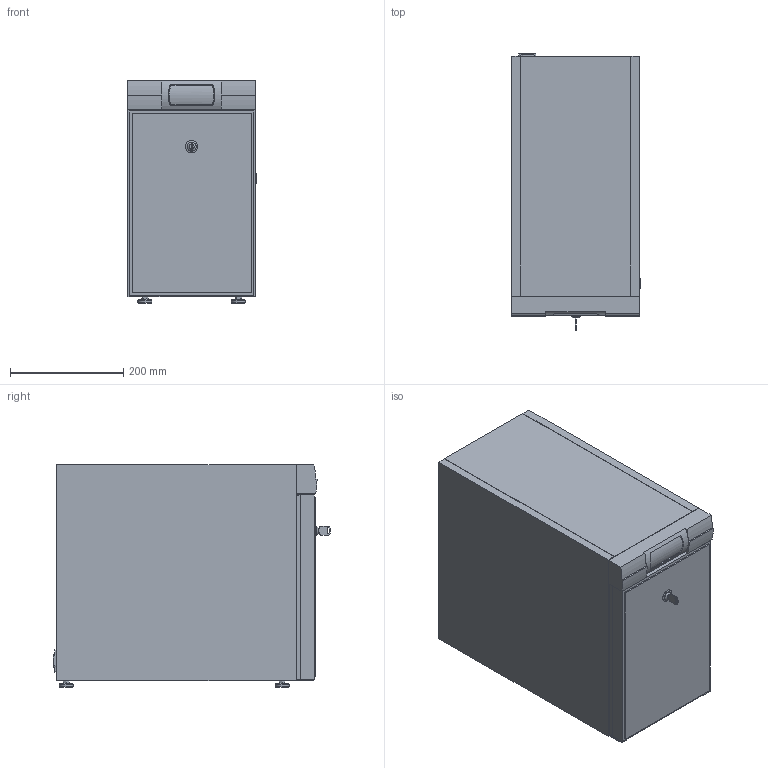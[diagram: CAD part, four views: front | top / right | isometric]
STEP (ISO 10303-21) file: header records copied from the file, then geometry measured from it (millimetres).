
FILE_DESCRIPTION(/* description */ (''),/* implementation_level */ '2;1');
FILE_NAME(/* name */ 'D:\Projekte\WMF\am\kuehler\03_9190_5001\3D\03_9190_5001_3D.stp',/* time_stamp */ '2016-01-31T08:46:30+01:00',/* author */ ('AM'),/* organization */ (''),/* preprocessor_version */ 'ST-DEVELOPER v15.2',/* originating_system */ 'Autodesk Inventor 2014',/* authorisation */ '');
FILE_SCHEMA (('AUTOMOTIVE_DESIGN { 1 0 10303 214 3 1 1 }'));
Length unit declared in the file: millimetre
Products named in the file (1): 03_9190_5001_3D
Bounding box: 226.5 x 488.5 x 392 mm (x, y, z)
Volume: 39038396.5 mm3; surface area: 753429.8 mm2
Topology: 1 solids, 1 shells, 198 faces, 500 edges, 323 vertices
Faces by surface type: plane 144, cylinder 42, cone 10, bspline 2
Full cylindrical faces by diameter (mm): 8 x2, 16 x1, 18 x1, 22 x1, 25 x4
Entity records: 5888 total; most frequent: CARTESIAN_POINT 1107, ORIENTED_EDGE 962, DIRECTION 958, EDGE_CURVE 481, LINE 378, VECTOR 378, VERTEX_POINT 323, AXIS2_PLACEMENT_3D 290
